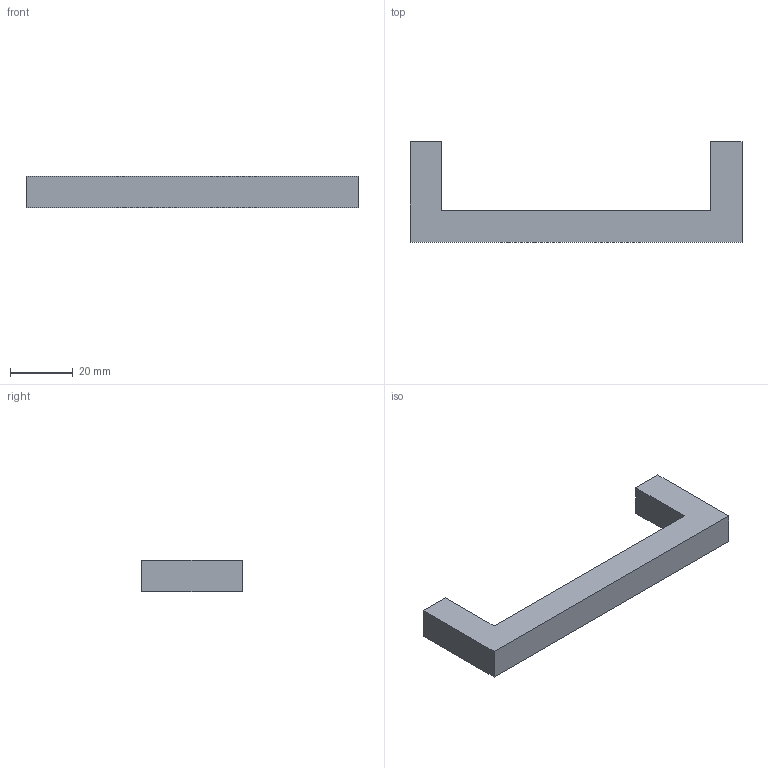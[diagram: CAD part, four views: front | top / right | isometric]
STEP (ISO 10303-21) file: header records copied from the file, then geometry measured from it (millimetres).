
FILE_DESCRIPTION( ( 'STEP AP214' ), '1' );
FILE_NAME( 'C:/Users/kulkarni/Desktop/Apurva/2015/Prodecor_2016/Cadfiles/same as files/Anzio/9204164.stp', ' ', ( ' ' ), ( ' ' ), 'PSStep 15.0.47', 'PARTsolutions', ' ' );
FILE_SCHEMA( ( 'AUTOMOTIVE_DESIGN { 1 0 10303 214 1 1 1 1 }' ) );
Length unit declared in the file: millimetre
Products named in the file (1): _9204164
Bounding box: 106 x 32 x 10 mm (x, y, z)
Volume: 14748.7 mm3; surface area: 6451.3 mm2
Topology: 1 solids, 1 shells, 14 faces, 30 edges, 20 vertices
Faces by surface type: plane 12, cylinder 2
Full cylindrical faces by diameter (mm): 4 x2
Entity records: 496 total; most frequent: CARTESIAN_POINT 63, DIRECTION 62, ORIENTED_EDGE 56, EDGE_CURVE 28, LINE 24, VECTOR 24, VERTEX_POINT 20, AXIS2_PLACEMENT_3D 19
